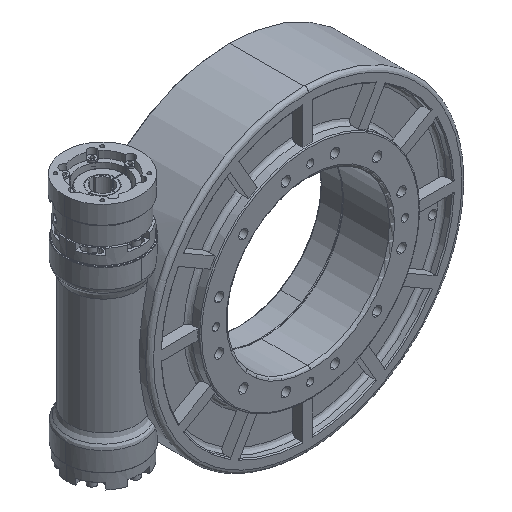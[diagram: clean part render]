
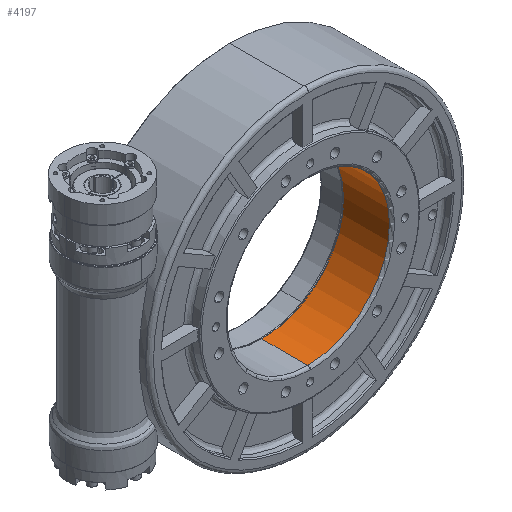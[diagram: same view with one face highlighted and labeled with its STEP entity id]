
A CAD part, isometric view. The second image highlights one B-rep face of the part: STEP entity #4197.
In plain terms, the highlighted cylindrical face has radius 160 mm (diameter 320 mm), a partial arc.
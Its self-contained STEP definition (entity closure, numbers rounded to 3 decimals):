
#564 = CYLINDRICAL_SURFACE ( 'NONE', #13955, 160. ) ;
#3645 = DIRECTION ( 'NONE',  ( 0., -1., 0. ) ) ;
#4197 = ADVANCED_FACE ( 'NONE', ( #21801 ), #564, .F. ) ;
#5431 = VERTEX_POINT ( 'NONE', #25337 ) ;
#6996 = CARTESIAN_POINT ( 'NONE',  ( 0., 70., 0. ) ) ;
#13135 = DIRECTION ( 'NONE',  ( 0., -1., 0. ) ) ;
#13243 = EDGE_CURVE ( 'NONE', #41113, #5431, #51971, .T. ) ;
#13955 = AXIS2_PLACEMENT_3D ( 'NONE', #6996, #15181, #53298 ) ;
#13981 = ORIENTED_EDGE ( 'NONE', *, *, #29778, .F. ) ;
#14074 = AXIS2_PLACEMENT_3D ( 'NONE', #39568, #15875, #36306 ) ;
#15181 = DIRECTION ( 'NONE',  ( 0., -1., 0. ) ) ;
#15875 = DIRECTION ( 'NONE',  ( 0., 1., 0. ) ) ;
#18980 = ORIENTED_EDGE ( 'NONE', *, *, #19450, .T. ) ;
#19450 = EDGE_CURVE ( 'NONE', #51996, #41113, #33589, .T. ) ;
#19687 = CARTESIAN_POINT ( 'NONE',  ( 0., 70., 160. ) ) ;
#21801 = FACE_OUTER_BOUND ( 'NONE', #32077, .T. ) ;
#22501 = VECTOR ( 'NONE', #50179, 1000. ) ;
#25337 = CARTESIAN_POINT ( 'NONE',  ( 0., -20., 160. ) ) ;
#28461 = AXIS2_PLACEMENT_3D ( 'NONE', #45064, #3645, #49405 ) ;
#29778 = EDGE_CURVE ( 'NONE', #36995, #5431, #33850, .T. ) ;
#29843 = ORIENTED_EDGE ( 'NONE', *, *, #33693, .T. ) ;
#30916 = VECTOR ( 'NONE', #13135, 1000. ) ;
#32077 = EDGE_LOOP ( 'NONE', ( #13981, #29843, #18980, #34409 ) ) ;
#32517 = CARTESIAN_POINT ( 'NONE',  ( 0., 70., -160. ) ) ;
#33589 = LINE ( 'NONE', #32517, #22501 ) ;
#33693 = EDGE_CURVE ( 'NONE', #36995, #51996, #53236, .T. ) ;
#33850 = LINE ( 'NONE', #50439, #30916 ) ;
#34409 = ORIENTED_EDGE ( 'NONE', *, *, #13243, .T. ) ;
#36306 = DIRECTION ( 'NONE',  ( 0., 0., -1. ) ) ;
#36970 = CARTESIAN_POINT ( 'NONE',  ( 0., 70., -160. ) ) ;
#36995 = VERTEX_POINT ( 'NONE', #19687 ) ;
#39568 = CARTESIAN_POINT ( 'NONE',  ( 0., 70., 0. ) ) ;
#41113 = VERTEX_POINT ( 'NONE', #49553 ) ;
#45064 = CARTESIAN_POINT ( 'NONE',  ( 0., -20., 0. ) ) ;
#49405 = DIRECTION ( 'NONE',  ( 1., 0., 0. ) ) ;
#49553 = CARTESIAN_POINT ( 'NONE',  ( 0., -20., -160. ) ) ;
#50179 = DIRECTION ( 'NONE',  ( 0., -1., 0. ) ) ;
#50439 = CARTESIAN_POINT ( 'NONE',  ( 0., 70., 160. ) ) ;
#51971 = CIRCLE ( 'NONE', #28461, 160. ) ;
#51996 = VERTEX_POINT ( 'NONE', #36970 ) ;
#53236 = CIRCLE ( 'NONE', #14074, 160. ) ;
#53298 = DIRECTION ( 'NONE',  ( 0., 0., -1. ) ) ;
